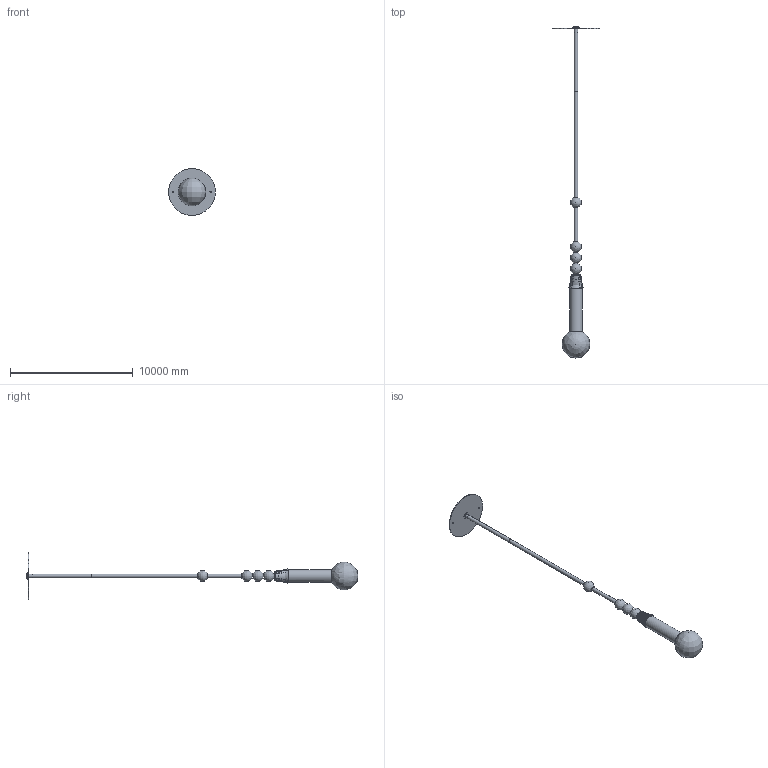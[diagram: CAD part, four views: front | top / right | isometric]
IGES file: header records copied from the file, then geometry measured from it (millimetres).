
Global section: file name: Allia Pendant Light; native system: AutoCAD 2022 - 简体中文 (Simplified Chinese),62HAuto; preprocessor: desk Translation Framework DWG producer (atf_dwg_producer); organization: unknown; date: 20251230.143112; units: inch
Bounding box: 3806.61 x 27041.48 x 3803.77 mm (x, y, z)
Volume: 6570822706.8 mm3; surface area: 122151885.5 mm2
Topology: 26 solids, 27 shells, 66 faces, 133 edges, 87 vertices
Faces by surface type: bspline 66
